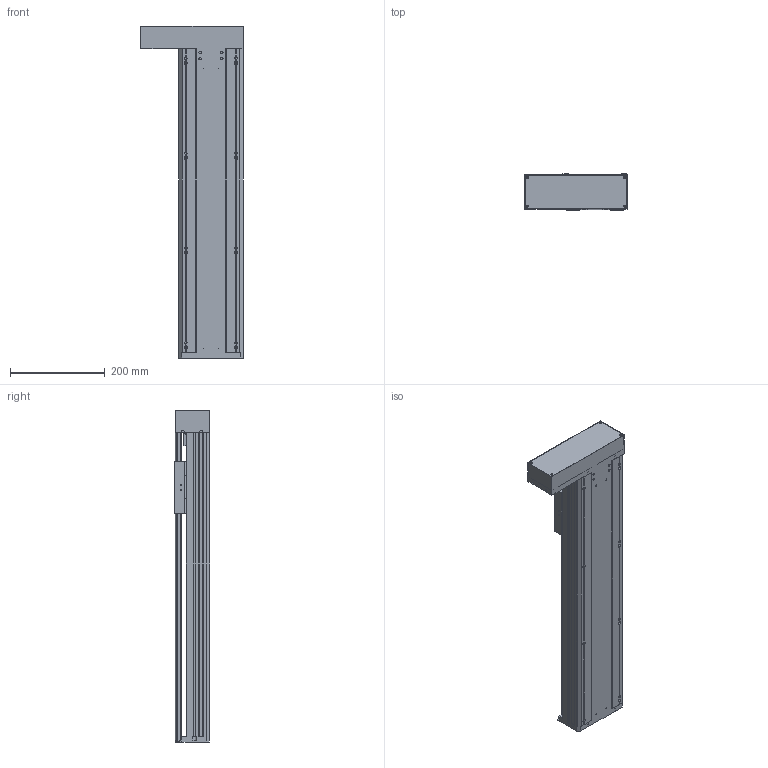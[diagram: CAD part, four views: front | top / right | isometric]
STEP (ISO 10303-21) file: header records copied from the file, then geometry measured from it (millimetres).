
FILE_DESCRIPTION(/* description */ (''),/* implementation_level */ '2;1');
FILE_NAME(/* name */ 'TKA136-FL-450_asm1.stp',/* time_stamp */ '2016-05-07T11:17:42+08:00',/* author */ (''),/* organization */ (''),/* preprocessor_version */ 'ST-DEVELOPER v15',/* originating_system */ 'SIEMENS PLM Software NX 8.5',/* authorisation */ '');
FILE_SCHEMA (('AUTOMOTIVE_DESIGN { 1 0 10303 214 3 1 1 1 }'));
Length unit declared in the file: millimetre
Products named in the file (3): 100-02; 100-01; TKA136-FL-450_asm1
Assembly tree (2 placements, depth 2):
  TKA136-FL-450_asm1
    100-01
    100-02
Bounding box: 216 x 75 x 700 mm (x, y, z)
Volume: 2266317.6 mm3; surface area: 898166.3 mm2
Topology: 2 solids, 12 shells, 870 faces, 2426 edges, 1583 vertices
Faces by surface type: plane 419, cylinder 400, cone 51
Full cylindrical faces by diameter (mm): 2.5 x14, 3 x2, 3.3 x13, 4 x4, 4.2 x6, 4.5 x24, 5 x16, 5.5 x26, 6.6 x12, 8 x20, 10 x9, 10.5 x8, 11 x4, 11.6 x1, 12 x9, 15 x3, 16 x5, 17 x1, 24 x5, 26 x1, 28 x1, 46 x1, 50 x1
Entity records: 28800 total; most frequent: CARTESIAN_POINT 7476, DIRECTION 4428, ORIENTED_EDGE 4118, EDGE_CURVE 2059, AXIS2_PLACEMENT_3D 1671, VERTEX_POINT 1472, EDGE_LOOP 1294, LINE 1086
